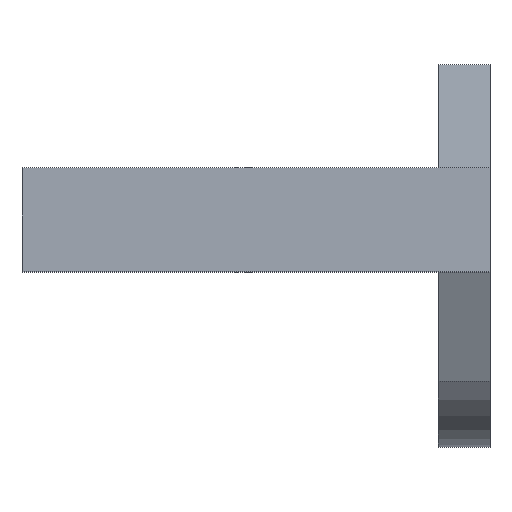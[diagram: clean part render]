
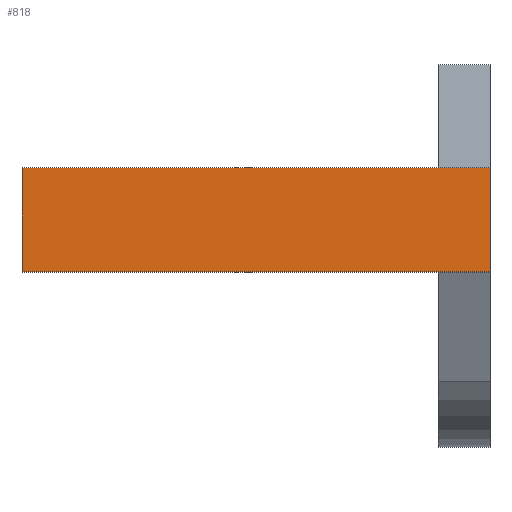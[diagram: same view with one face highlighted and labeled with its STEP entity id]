
A CAD part, top view. The second image highlights one B-rep face of the part: STEP entity #818.
In plain terms, the highlighted planar face has unit normal (0, 0, 1).
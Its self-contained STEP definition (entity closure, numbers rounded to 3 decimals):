
#132 = PLANE('',#133);
#133 = AXIS2_PLACEMENT_3D('',#134,#135,#136);
#134 = CARTESIAN_POINT('',(-12.,-37.,-16.));
#135 = DIRECTION('',(0.,1.,0.));
#136 = DIRECTION('',(0.,0.,1.));
#252 = PLANE('',#253);
#253 = AXIS2_PLACEMENT_3D('',#254,#255,#256);
#254 = CARTESIAN_POINT('',(15.,-45.,-82.));
#255 = DIRECTION('',(1.,0.,0.));
#256 = DIRECTION('',(-0.,0.,1.));
#492 = PLANE('',#493);
#493 = AXIS2_PLACEMENT_3D('',#494,#495,#496);
#494 = CARTESIAN_POINT('',(-12.,-43.,-16.));
#495 = DIRECTION('',(1.,0.,0.));
#496 = DIRECTION('',(0.,0.,1.));
#520 = PLANE('',#521);
#521 = AXIS2_PLACEMENT_3D('',#522,#523,#524);
#522 = CARTESIAN_POINT('',(-12.,-43.,-16.));
#523 = DIRECTION('',(0.,1.,0.));
#524 = DIRECTION('',(0.,0.,1.));
#560 = VERTEX_POINT('',#561);
#561 = CARTESIAN_POINT('',(-12.,-37.,2.));
#582 = EDGE_CURVE('',#560,#583,#585,.T.);
#583 = VERTEX_POINT('',#584);
#584 = CARTESIAN_POINT('',(15.,-37.,2.));
#585 = SURFACE_CURVE('',#586,(#590,#597),.PCURVE_S1.);
#586 = LINE('',#587,#588);
#587 = CARTESIAN_POINT('',(-12.,-37.,2.));
#588 = VECTOR('',#589,1.);
#589 = DIRECTION('',(1.,0.,0.));
#590 = PCURVE('',#132,#591);
#591 = DEFINITIONAL_REPRESENTATION('',(#592),#596);
#592 = LINE('',#593,#594);
#593 = CARTESIAN_POINT('',(18.,0.));
#594 = VECTOR('',#595,1.);
#595 = DIRECTION('',(0.,1.));
#596 = ( GEOMETRIC_REPRESENTATION_CONTEXT(2) 
PARAMETRIC_REPRESENTATION_CONTEXT() REPRESENTATION_CONTEXT('2D SPACE',''
  ) );
#597 = PCURVE('',#598,#603);
#598 = PLANE('',#599);
#599 = AXIS2_PLACEMENT_3D('',#600,#601,#602);
#600 = CARTESIAN_POINT('',(-12.,-43.,2.));
#601 = DIRECTION('',(0.,0.,1.));
#602 = DIRECTION('',(1.,0.,0.));
#603 = DEFINITIONAL_REPRESENTATION('',(#604),#608);
#604 = LINE('',#605,#606);
#605 = CARTESIAN_POINT('',(0.,6.));
#606 = VECTOR('',#607,1.);
#607 = DIRECTION('',(1.,0.));
#608 = ( GEOMETRIC_REPRESENTATION_CONTEXT(2) 
PARAMETRIC_REPRESENTATION_CONTEXT() REPRESENTATION_CONTEXT('2D SPACE',''
  ) );
#694 = EDGE_CURVE('',#695,#583,#697,.T.);
#695 = VERTEX_POINT('',#696);
#696 = CARTESIAN_POINT('',(15.,-43.,2.));
#697 = SURFACE_CURVE('',#698,(#702,#709),.PCURVE_S1.);
#698 = LINE('',#699,#700);
#699 = CARTESIAN_POINT('',(15.,-43.,2.));
#700 = VECTOR('',#701,1.);
#701 = DIRECTION('',(0.,1.,0.));
#702 = PCURVE('',#252,#703);
#703 = DEFINITIONAL_REPRESENTATION('',(#704),#708);
#704 = LINE('',#705,#706);
#705 = CARTESIAN_POINT('',(84.,-2.));
#706 = VECTOR('',#707,1.);
#707 = DIRECTION('',(0.,-1.));
#708 = ( GEOMETRIC_REPRESENTATION_CONTEXT(2) 
PARAMETRIC_REPRESENTATION_CONTEXT() REPRESENTATION_CONTEXT('2D SPACE',''
  ) );
#709 = PCURVE('',#598,#710);
#710 = DEFINITIONAL_REPRESENTATION('',(#711),#715);
#711 = LINE('',#712,#713);
#712 = CARTESIAN_POINT('',(27.,0.));
#713 = VECTOR('',#714,1.);
#714 = DIRECTION('',(0.,1.));
#715 = ( GEOMETRIC_REPRESENTATION_CONTEXT(2) 
PARAMETRIC_REPRESENTATION_CONTEXT() REPRESENTATION_CONTEXT('2D SPACE',''
  ) );
#748 = VERTEX_POINT('',#749);
#749 = CARTESIAN_POINT('',(-12.,-43.,2.));
#770 = EDGE_CURVE('',#748,#695,#771,.T.);
#771 = SURFACE_CURVE('',#772,(#776,#783),.PCURVE_S1.);
#772 = LINE('',#773,#774);
#773 = CARTESIAN_POINT('',(-12.,-43.,2.));
#774 = VECTOR('',#775,1.);
#775 = DIRECTION('',(1.,0.,0.));
#776 = PCURVE('',#520,#777);
#777 = DEFINITIONAL_REPRESENTATION('',(#778),#782);
#778 = LINE('',#779,#780);
#779 = CARTESIAN_POINT('',(18.,0.));
#780 = VECTOR('',#781,1.);
#781 = DIRECTION('',(0.,1.));
#782 = ( GEOMETRIC_REPRESENTATION_CONTEXT(2) 
PARAMETRIC_REPRESENTATION_CONTEXT() REPRESENTATION_CONTEXT('2D SPACE',''
  ) );
#783 = PCURVE('',#598,#784);
#784 = DEFINITIONAL_REPRESENTATION('',(#785),#789);
#785 = LINE('',#786,#787);
#786 = CARTESIAN_POINT('',(0.,0.));
#787 = VECTOR('',#788,1.);
#788 = DIRECTION('',(1.,0.));
#789 = ( GEOMETRIC_REPRESENTATION_CONTEXT(2) 
PARAMETRIC_REPRESENTATION_CONTEXT() REPRESENTATION_CONTEXT('2D SPACE',''
  ) );
#798 = EDGE_CURVE('',#748,#560,#799,.T.);
#799 = SURFACE_CURVE('',#800,(#804,#811),.PCURVE_S1.);
#800 = LINE('',#801,#802);
#801 = CARTESIAN_POINT('',(-12.,-43.,2.));
#802 = VECTOR('',#803,1.);
#803 = DIRECTION('',(0.,1.,0.));
#804 = PCURVE('',#492,#805);
#805 = DEFINITIONAL_REPRESENTATION('',(#806),#810);
#806 = LINE('',#807,#808);
#807 = CARTESIAN_POINT('',(18.,0.));
#808 = VECTOR('',#809,1.);
#809 = DIRECTION('',(0.,-1.));
#810 = ( GEOMETRIC_REPRESENTATION_CONTEXT(2) 
PARAMETRIC_REPRESENTATION_CONTEXT() REPRESENTATION_CONTEXT('2D SPACE',''
  ) );
#811 = PCURVE('',#598,#812);
#812 = DEFINITIONAL_REPRESENTATION('',(#813),#817);
#813 = LINE('',#814,#815);
#814 = CARTESIAN_POINT('',(0.,0.));
#815 = VECTOR('',#816,1.);
#816 = DIRECTION('',(0.,1.));
#817 = ( GEOMETRIC_REPRESENTATION_CONTEXT(2) 
PARAMETRIC_REPRESENTATION_CONTEXT() REPRESENTATION_CONTEXT('2D SPACE',''
  ) );
#818 = ADVANCED_FACE('',(#819),#598,.T.);
#819 = FACE_BOUND('',#820,.T.);
#820 = EDGE_LOOP('',(#821,#822,#823,#824));
#821 = ORIENTED_EDGE('',*,*,#798,.F.);
#822 = ORIENTED_EDGE('',*,*,#770,.T.);
#823 = ORIENTED_EDGE('',*,*,#694,.T.);
#824 = ORIENTED_EDGE('',*,*,#582,.F.);
